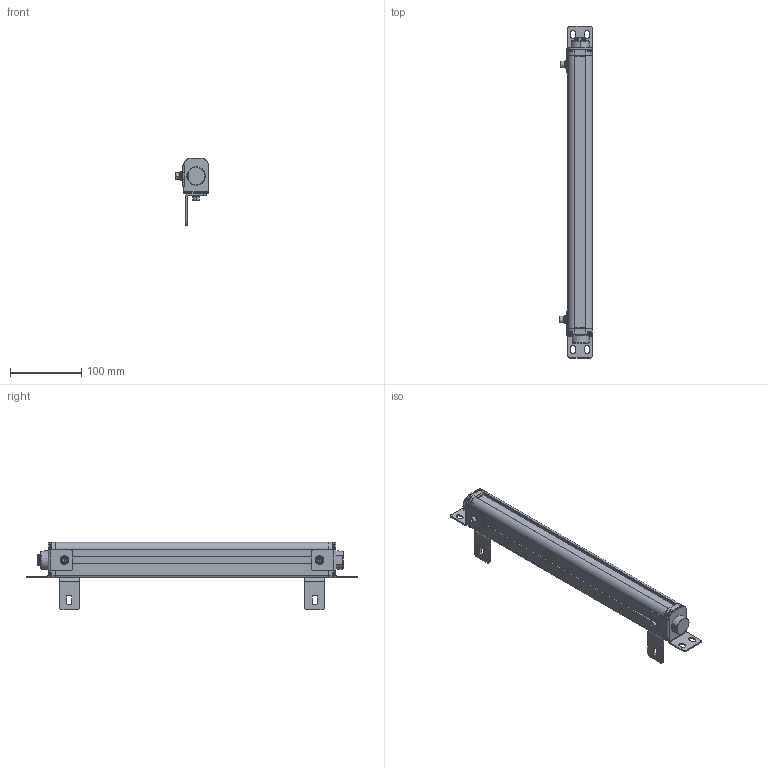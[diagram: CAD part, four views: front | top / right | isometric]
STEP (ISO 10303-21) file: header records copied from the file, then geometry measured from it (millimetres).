
FILE_DESCRIPTION((''),'2;1');
FILE_NAME('ESN--000_ASM','2021-08-10T21:14:20',('18720616900'),(''),'CREO PARAMETRIC BY PTC INC, 2019010','CREO PARAMETRIC BY PTC INC, 2019010','');
FILE_SCHEMA(('CONFIG_CONTROL_DESIGN'));
Products named in the file (22): 00; 000; _0002; _0003; _0004; 5000; 5--0001; ESN_50001_ASM; ST-3-120001; L10001; M6-8--0001; M6-1--00; M6-1-00; M6-80001_ASM; L1--0001_ASM; H1--000; H1--0003_ASM; H1--0001_ASM; ESN--000_ASM
Assembly tree (35 placements, depth 4):
  ESN--000_ASM
    00
    000
    _0002
    _0003
    _0004
    000
    ESN_50001_ASM
      5000
      5--0001  x5
    ST-3-120001  x8
    L1--0001_ASM  x2
      L10001
      M6-80001_ASM
        M6-8--0001
        M6-1--00
        M6-1-00
        00
    H1--0003_ASM
      H1--000
      M6-80001_ASM
        M6-8--0001
        M6-1--00
        M6-1-00
        00
    H1--0001_ASM
      H1--000
      M6-80001_ASM
        M6-8--0001
        M6-1--00
        M6-1-00
        00
Bounding box: 46.5 x 467 x 94.95 mm (x, y, z)
Volume: 628625.4 mm3; surface area: 159529.8 mm2
Topology: 40 solids, 40 shells, 1785 faces, 4708 edges, 3012 vertices
Faces by surface type: plane 583, cylinder 416, bspline 362, cone 291, torus 107, sphere 26
Entity records: 48222 total; most frequent: CARTESIAN_POINT 24957, ORIENTED_EDGE 5136, DIRECTION 4189, EDGE_CURVE 2568, VERTEX_POINT 1669, AXIS2_PLACEMENT_3D 1488, VECTOR 1213, LINE 1213
